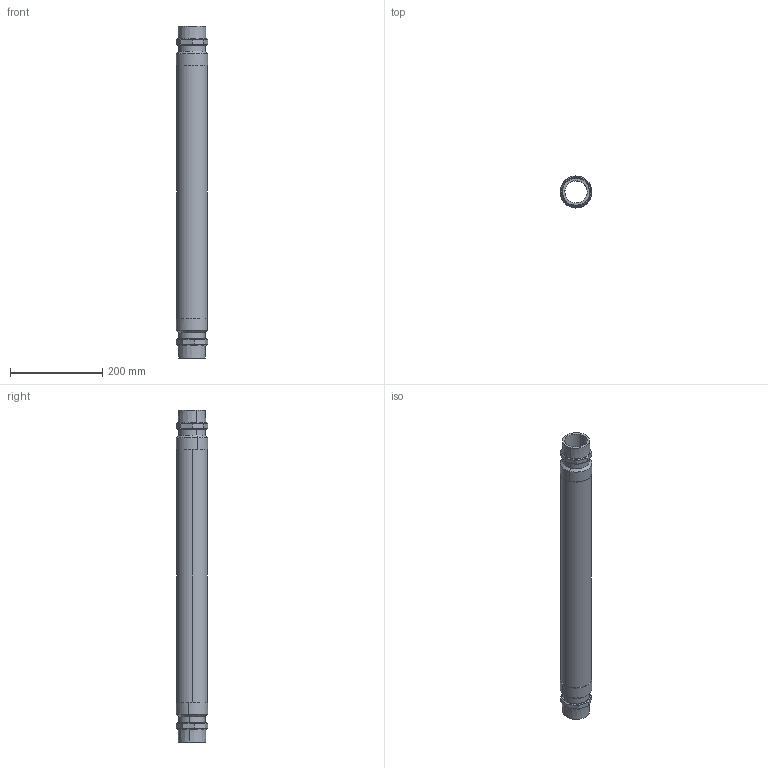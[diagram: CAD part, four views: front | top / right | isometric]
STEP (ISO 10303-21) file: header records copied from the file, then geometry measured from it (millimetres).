
FILE_DESCRIPTION (( 'STEP AP203' ), '1' );
FILE_NAME ('KP_TN50-6S.step', '2011-08-08T11:47:52', ( '' ), ( '' ), 'SwSTEP 2.0', 'SolidWorks 2011', '' );
FILE_SCHEMA (( 'CONFIG_CONTROL_DESIGN' ));
Length unit declared in the file: millimetre
Products named in the file (1): KP_TN50-6S
Bounding box: 68.55 x 68.55 x 720 mm (x, y, z)
Volume: 1023413.5 mm3; surface area: 270009.6 mm2
Topology: 1 solids, 1 shells, 100 faces, 232 edges, 140 vertices
Faces by surface type: plane 72, cylinder 16, cone 12
Entity records: 3349 total; most frequent: CARTESIAN_POINT 1069, ORIENTED_EDGE 464, DIRECTION 438, EDGE_CURVE 232, LINE 156, VECTOR 156, AXIS2_PLACEMENT_3D 141, VERTEX_POINT 140
